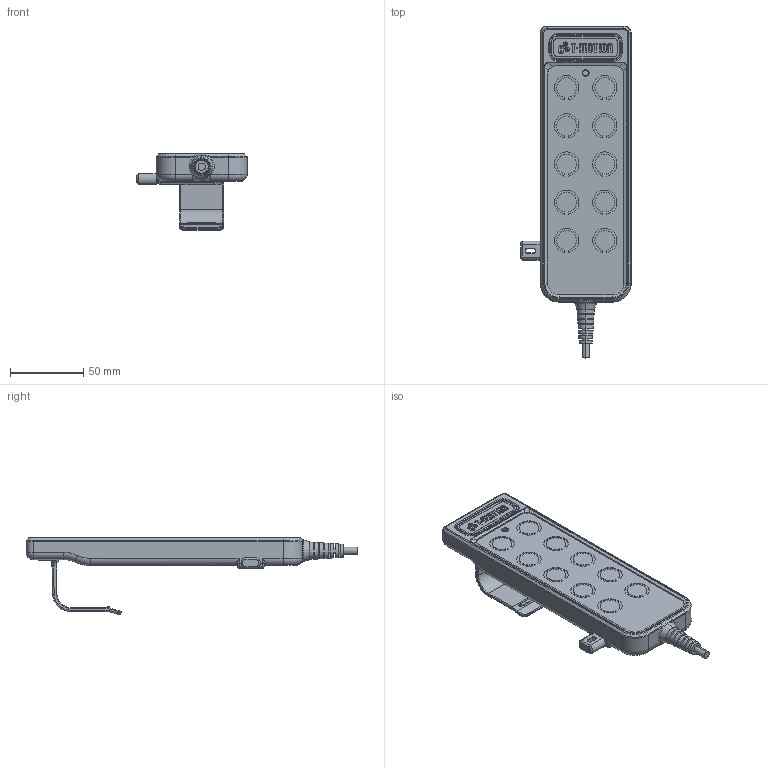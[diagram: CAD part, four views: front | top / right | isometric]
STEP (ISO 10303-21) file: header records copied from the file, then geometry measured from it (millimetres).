
FILE_DESCRIPTION (( 'STEP AP203' ), '1' );
FILE_NAME ('TH2(帶安全鎖).STEP', '2014-01-16T02:56:52', ( 'stanley' ), ( '' ), 'SwSTEP 2.0', 'SolidWorks 2010', '' );
FILE_SCHEMA (( 'CONFIG_CONTROL_DESIGN' ));
Length unit declared in the file: millimetre
Products named in the file (1): TH2(帶安全鎖)
Bounding box: 75.2 x 226 x 52.34 mm (x, y, z)
Volume: 202059.7 mm3; surface area: 40962.3 mm2
Topology: 1 solids, 1 shells, 1712 faces, 4827 edges, 3152 vertices
Faces by surface type: plane 1377, cylinder 202, torus 72, cone 32, bspline 24, sphere 5
Entity records: 57770 total; most frequent: CARTESIAN_POINT 13337, ORIENTED_EDGE 9642, DIRECTION 8624, EDGE_CURVE 4821, LINE 4136, VECTOR 4136, VERTEX_POINT 3150, AXIS2_PLACEMENT_3D 2244
